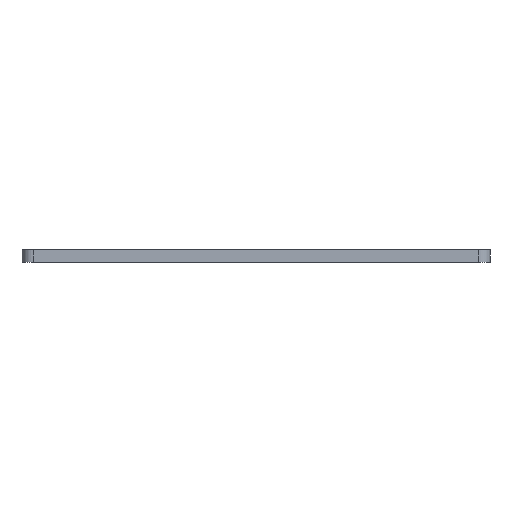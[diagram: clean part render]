
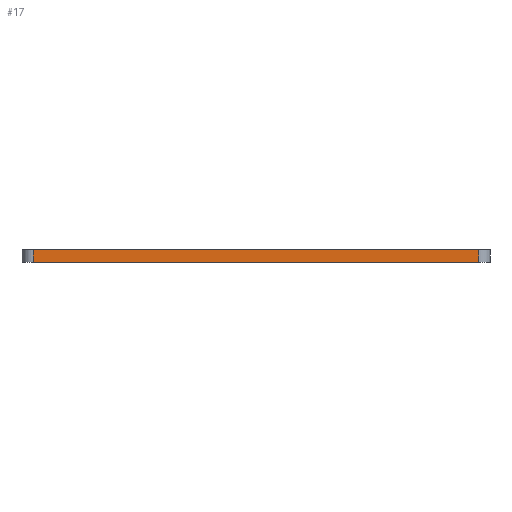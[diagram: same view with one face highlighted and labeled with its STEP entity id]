
A CAD part, left-side view. The second image highlights one B-rep face of the part: STEP entity #17.
In plain terms, the highlighted planar face has unit normal (-1, 0, 0).
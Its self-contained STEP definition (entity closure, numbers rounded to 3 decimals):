
#17 = ADVANCED_FACE('',(#18),#32,.T.);
#18 = FACE_BOUND('',#19,.T.);
#19 = EDGE_LOOP('',(#20,#55,#83,#111));
#20 = ORIENTED_EDGE('',*,*,#21,.T.);
#21 = EDGE_CURVE('',#22,#24,#26,.T.);
#22 = VERTEX_POINT('',#23);
#23 = CARTESIAN_POINT('',(-105.,-80.,0.));
#24 = VERTEX_POINT('',#25);
#25 = CARTESIAN_POINT('',(-105.,-80.,4.5));
#26 = SURFACE_CURVE('',#27,(#31,#43),.PCURVE_S1.);
#27 = LINE('',#28,#29);
#28 = CARTESIAN_POINT('',(-105.,-80.,0.));
#29 = VECTOR('',#30,1.);
#30 = DIRECTION('',(0.,0.,1.));
#31 = PCURVE('',#32,#37);
#32 = PLANE('',#33);
#33 = AXIS2_PLACEMENT_3D('',#34,#35,#36);
#34 = CARTESIAN_POINT('',(-105.,-80.,0.));
#35 = DIRECTION('',(-1.,0.,0.));
#36 = DIRECTION('',(0.,1.,0.));
#37 = DEFINITIONAL_REPRESENTATION('',(#38),#42);
#38 = LINE('',#39,#40);
#39 = CARTESIAN_POINT('',(0.,0.));
#40 = VECTOR('',#41,1.);
#41 = DIRECTION('',(0.,-1.));
#42 = ( GEOMETRIC_REPRESENTATION_CONTEXT(2) 
PARAMETRIC_REPRESENTATION_CONTEXT() REPRESENTATION_CONTEXT('2D SPACE',''
  ) );
#43 = PCURVE('',#44,#49);
#44 = CYLINDRICAL_SURFACE('',#45,4.);
#45 = AXIS2_PLACEMENT_3D('',#46,#47,#48);
#46 = CARTESIAN_POINT('',(-101.,-80.,0.));
#47 = DIRECTION('',(0.,0.,-1.));
#48 = DIRECTION('',(-1.,0.,0.));
#49 = DEFINITIONAL_REPRESENTATION('',(#50),#54);
#50 = LINE('',#51,#52);
#51 = CARTESIAN_POINT('',(6.283,0.));
#52 = VECTOR('',#53,1.);
#53 = DIRECTION('',(0.,-1.));
#54 = ( GEOMETRIC_REPRESENTATION_CONTEXT(2) 
PARAMETRIC_REPRESENTATION_CONTEXT() REPRESENTATION_CONTEXT('2D SPACE',''
  ) );
#55 = ORIENTED_EDGE('',*,*,#56,.T.);
#56 = EDGE_CURVE('',#24,#57,#59,.T.);
#57 = VERTEX_POINT('',#58);
#58 = CARTESIAN_POINT('',(-105.,80.,4.5));
#59 = SURFACE_CURVE('',#60,(#64,#71),.PCURVE_S1.);
#60 = LINE('',#61,#62);
#61 = CARTESIAN_POINT('',(-105.,0.,4.5));
#62 = VECTOR('',#63,1.);
#63 = DIRECTION('',(0.,1.,0.));
#64 = PCURVE('',#32,#65);
#65 = DEFINITIONAL_REPRESENTATION('',(#66),#70);
#66 = LINE('',#67,#68);
#67 = CARTESIAN_POINT('',(80.,-4.5));
#68 = VECTOR('',#69,1.);
#69 = DIRECTION('',(1.,0.));
#70 = ( GEOMETRIC_REPRESENTATION_CONTEXT(2) 
PARAMETRIC_REPRESENTATION_CONTEXT() REPRESENTATION_CONTEXT('2D SPACE',''
  ) );
#71 = PCURVE('',#72,#77);
#72 = PLANE('',#73);
#73 = AXIS2_PLACEMENT_3D('',#74,#75,#76);
#74 = CARTESIAN_POINT('',(0.,0.,4.5));
#75 = DIRECTION('',(0.,0.,1.));
#76 = DIRECTION('',(1.,0.,-0.));
#77 = DEFINITIONAL_REPRESENTATION('',(#78),#82);
#78 = LINE('',#79,#80);
#79 = CARTESIAN_POINT('',(-105.,0.));
#80 = VECTOR('',#81,1.);
#81 = DIRECTION('',(0.,1.));
#82 = ( GEOMETRIC_REPRESENTATION_CONTEXT(2) 
PARAMETRIC_REPRESENTATION_CONTEXT() REPRESENTATION_CONTEXT('2D SPACE',''
  ) );
#83 = ORIENTED_EDGE('',*,*,#84,.F.);
#84 = EDGE_CURVE('',#85,#57,#87,.T.);
#85 = VERTEX_POINT('',#86);
#86 = CARTESIAN_POINT('',(-105.,80.,0.));
#87 = SURFACE_CURVE('',#88,(#92,#99),.PCURVE_S1.);
#88 = LINE('',#89,#90);
#89 = CARTESIAN_POINT('',(-105.,80.,0.));
#90 = VECTOR('',#91,1.);
#91 = DIRECTION('',(0.,0.,1.));
#92 = PCURVE('',#32,#93);
#93 = DEFINITIONAL_REPRESENTATION('',(#94),#98);
#94 = LINE('',#95,#96);
#95 = CARTESIAN_POINT('',(160.,0.));
#96 = VECTOR('',#97,1.);
#97 = DIRECTION('',(0.,-1.));
#98 = ( GEOMETRIC_REPRESENTATION_CONTEXT(2) 
PARAMETRIC_REPRESENTATION_CONTEXT() REPRESENTATION_CONTEXT('2D SPACE',''
  ) );
#99 = PCURVE('',#100,#105);
#100 = CYLINDRICAL_SURFACE('',#101,4.);
#101 = AXIS2_PLACEMENT_3D('',#102,#103,#104);
#102 = CARTESIAN_POINT('',(-101.,80.,0.));
#103 = DIRECTION('',(0.,0.,-1.));
#104 = DIRECTION('',(-1.,0.,0.));
#105 = DEFINITIONAL_REPRESENTATION('',(#106),#110);
#106 = LINE('',#107,#108);
#107 = CARTESIAN_POINT('',(0.,0.));
#108 = VECTOR('',#109,1.);
#109 = DIRECTION('',(0.,-1.));
#110 = ( GEOMETRIC_REPRESENTATION_CONTEXT(2) 
PARAMETRIC_REPRESENTATION_CONTEXT() REPRESENTATION_CONTEXT('2D SPACE',''
  ) );
#111 = ORIENTED_EDGE('',*,*,#112,.F.);
#112 = EDGE_CURVE('',#22,#85,#113,.T.);
#113 = SURFACE_CURVE('',#114,(#118,#125),.PCURVE_S1.);
#114 = LINE('',#115,#116);
#115 = CARTESIAN_POINT('',(-105.,0.,0.));
#116 = VECTOR('',#117,1.);
#117 = DIRECTION('',(0.,1.,0.));
#118 = PCURVE('',#32,#119);
#119 = DEFINITIONAL_REPRESENTATION('',(#120),#124);
#120 = LINE('',#121,#122);
#121 = CARTESIAN_POINT('',(80.,0.));
#122 = VECTOR('',#123,1.);
#123 = DIRECTION('',(1.,0.));
#124 = ( GEOMETRIC_REPRESENTATION_CONTEXT(2) 
PARAMETRIC_REPRESENTATION_CONTEXT() REPRESENTATION_CONTEXT('2D SPACE',''
  ) );
#125 = PCURVE('',#126,#131);
#126 = PLANE('',#127);
#127 = AXIS2_PLACEMENT_3D('',#128,#129,#130);
#128 = CARTESIAN_POINT('',(0.,0.,0.));
#129 = DIRECTION('',(0.,0.,1.));
#130 = DIRECTION('',(1.,0.,-0.));
#131 = DEFINITIONAL_REPRESENTATION('',(#132),#136);
#132 = LINE('',#133,#134);
#133 = CARTESIAN_POINT('',(-105.,0.));
#134 = VECTOR('',#135,1.);
#135 = DIRECTION('',(0.,1.));
#136 = ( GEOMETRIC_REPRESENTATION_CONTEXT(2) 
PARAMETRIC_REPRESENTATION_CONTEXT() REPRESENTATION_CONTEXT('2D SPACE',''
  ) );
